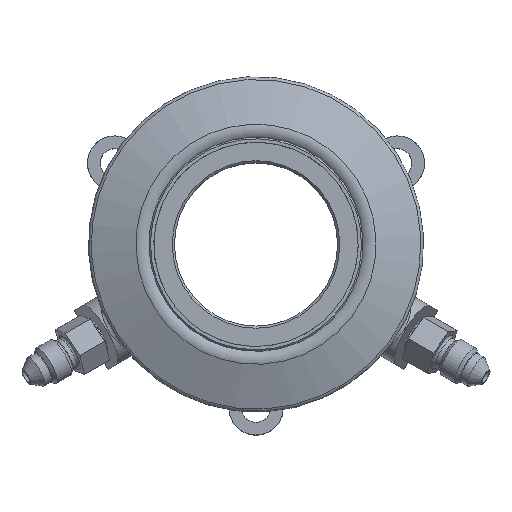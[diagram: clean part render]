
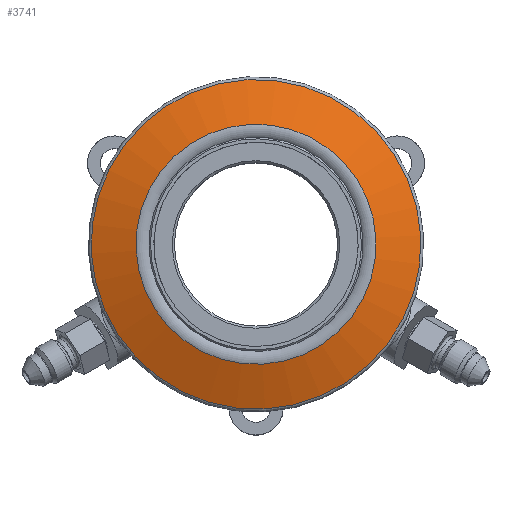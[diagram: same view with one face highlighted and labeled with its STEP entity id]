
A CAD part, top view. The second image highlights one B-rep face of the part: STEP entity #3741.
In plain terms, the highlighted conical face has half-angle 70 degrees and reference radius 39.15 mm.
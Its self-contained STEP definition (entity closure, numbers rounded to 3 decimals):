
#113=CONICAL_SURFACE('',#4008,39.15,1.222);
#994=ORIENTED_EDGE('',*,*,#1430,.F.);
#995=ORIENTED_EDGE('',*,*,#1423,.T.);
#1423=EDGE_CURVE('',#1685,#1685,#1854,.T.);
#1430=EDGE_CURVE('',#1692,#1692,#1861,.T.);
#1685=VERTEX_POINT('',#6339);
#1692=VERTEX_POINT('',#6358);
#1854=CIRCLE('',#3995,38.492);
#1861=CIRCLE('',#4007,28.026);
#2037=EDGE_LOOP('',(#994));
#2038=EDGE_LOOP('',(#995));
#2281=FACE_BOUND('',#2037,.T.);
#2282=FACE_BOUND('',#2038,.T.);
#3741=ADVANCED_FACE('',(#2281,#2282),#113,.T.);
#3995=AXIS2_PLACEMENT_3D('',#6338,#4582,#4583);
#4007=AXIS2_PLACEMENT_3D('',#6357,#4606,#4607);
#4008=AXIS2_PLACEMENT_3D('',#6359,#4608,#4609);
#4582=DIRECTION('',(0.,0.,1.));
#4583=DIRECTION('',(-0.452,-0.892,0.));
#4606=DIRECTION('',(0.,0.,1.));
#4607=DIRECTION('',(-0.452,-0.892,0.));
#4608=DIRECTION('',(0.,0.,-1.));
#4609=DIRECTION('',(0.452,0.892,0.));
#6338=CARTESIAN_POINT('',(0.,0.,71.968));
#6339=CARTESIAN_POINT('',(-17.393,-34.338,71.968));
#6357=CARTESIAN_POINT('',(0.,0.,75.778));
#6358=CARTESIAN_POINT('',(-12.664,-25.002,75.778));
#6359=CARTESIAN_POINT('',(0.,0.,71.729));
